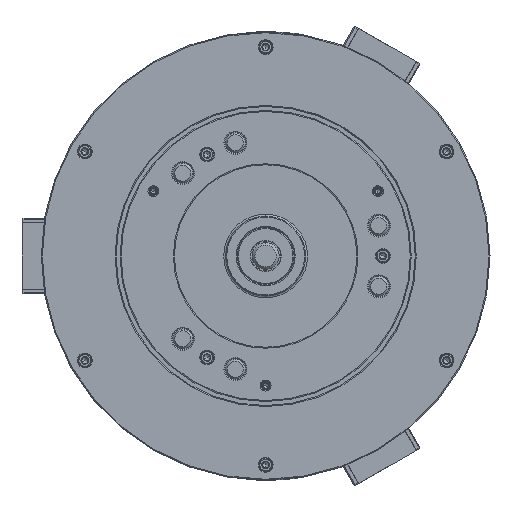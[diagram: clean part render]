
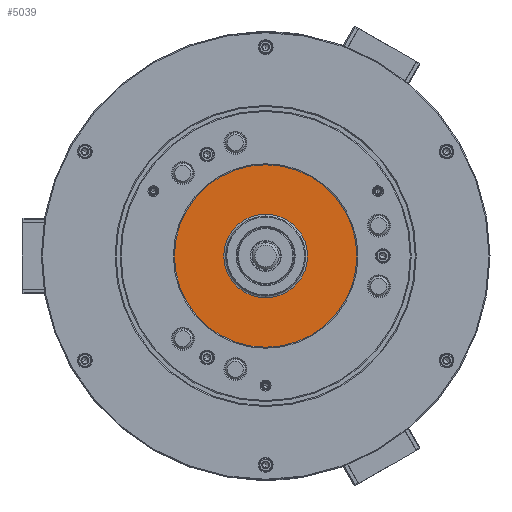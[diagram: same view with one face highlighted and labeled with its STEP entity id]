
A CAD part, left-side view. The second image highlights one B-rep face of the part: STEP entity #5039.
In plain terms, the highlighted planar face has unit normal (-1, 0, 0).
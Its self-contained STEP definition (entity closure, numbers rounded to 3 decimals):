
#2712 = CIRCLE ( 'NONE', #33095, 42. ) ;
#2944 = CARTESIAN_POINT ( 'NONE',  ( -111.5, 0., 0. ) ) ;
#5039 = ADVANCED_FACE ( 'NONE', ( #103799, #100961 ), #57737, .F. ) ;
#6260 = EDGE_CURVE ( 'NONE', #23795, #62272, #78071, .T. ) ;
#11559 = CARTESIAN_POINT ( 'NONE',  ( -111.5, 0., 0. ) ) ;
#11738 = EDGE_LOOP ( 'NONE', ( #27436, #93253 ) ) ;
#15566 = DIRECTION ( 'NONE',  ( 0., 0., 1. ) ) ;
#15638 = EDGE_CURVE ( 'NONE', #62272, #23795, #2712, .T. ) ;
#20984 = EDGE_LOOP ( 'NONE', ( #54643, #22277 ) ) ;
#22277 = ORIENTED_EDGE ( 'NONE', *, *, #80802, .T. ) ;
#23795 = VERTEX_POINT ( 'NONE', #78487 ) ;
#26284 = DIRECTION ( 'NONE',  ( 1., 0., 0. ) ) ;
#26583 = DIRECTION ( 'NONE',  ( -1., 0., 0. ) ) ;
#27436 = ORIENTED_EDGE ( 'NONE', *, *, #6260, .F. ) ;
#33095 = AXIS2_PLACEMENT_3D ( 'NONE', #50679, #26583, #39719 ) ;
#33571 = VERTEX_POINT ( 'NONE', #135812 ) ;
#33696 = AXIS2_PLACEMENT_3D ( 'NONE', #11559, #56902, #53492 ) ;
#36708 = AXIS2_PLACEMENT_3D ( 'NONE', #71165, #106274, #15566 ) ;
#39719 = DIRECTION ( 'NONE',  ( 0., 0., 1. ) ) ;
#41986 = VERTEX_POINT ( 'NONE', #76776 ) ;
#48307 = DIRECTION ( 'NONE',  ( 0., 0., 1. ) ) ;
#50679 = CARTESIAN_POINT ( 'NONE',  ( -111.5, 0., 0. ) ) ;
#53492 = DIRECTION ( 'NONE',  ( 0., 0., 1. ) ) ;
#54643 = ORIENTED_EDGE ( 'NONE', *, *, #62321, .T. ) ;
#56902 = DIRECTION ( 'NONE',  ( -1., 0., 0. ) ) ;
#57737 = PLANE ( 'NONE',  #94313 ) ;
#62272 = VERTEX_POINT ( 'NONE', #69717 ) ;
#62321 = EDGE_CURVE ( 'NONE', #33571, #41986, #127861, .T. ) ;
#68730 = CARTESIAN_POINT ( 'NONE',  ( -111.5, 91.54, 0. ) ) ;
#69717 = CARTESIAN_POINT ( 'NONE',  ( -111.5, 0., -42. ) ) ;
#71165 = CARTESIAN_POINT ( 'NONE',  ( -111.5, 0., 0. ) ) ;
#76776 = CARTESIAN_POINT ( 'NONE',  ( -111.5, 0., -91.54 ) ) ;
#78071 = CIRCLE ( 'NONE', #33696, 42. ) ;
#78487 = CARTESIAN_POINT ( 'NONE',  ( -111.5, 0., 42. ) ) ;
#80802 = EDGE_CURVE ( 'NONE', #41986, #33571, #130706, .T. ) ;
#93253 = ORIENTED_EDGE ( 'NONE', *, *, #15638, .F. ) ;
#94313 = AXIS2_PLACEMENT_3D ( 'NONE', #68730, #26284, #126444 ) ;
#100961 = FACE_OUTER_BOUND ( 'NONE', #20984, .T. ) ;
#103799 = FACE_BOUND ( 'NONE', #11738, .T. ) ;
#106274 = DIRECTION ( 'NONE',  ( -1., 0., 0. ) ) ;
#121401 = AXIS2_PLACEMENT_3D ( 'NONE', #2944, #136125, #48307 ) ;
#126444 = DIRECTION ( 'NONE',  ( 0., 0., -1. ) ) ;
#127861 = CIRCLE ( 'NONE', #36708, 91.54 ) ;
#130706 = CIRCLE ( 'NONE', #121401, 91.54 ) ;
#135812 = CARTESIAN_POINT ( 'NONE',  ( -111.5, 0., 91.54 ) ) ;
#136125 = DIRECTION ( 'NONE',  ( -1., 0., 0. ) ) ;
